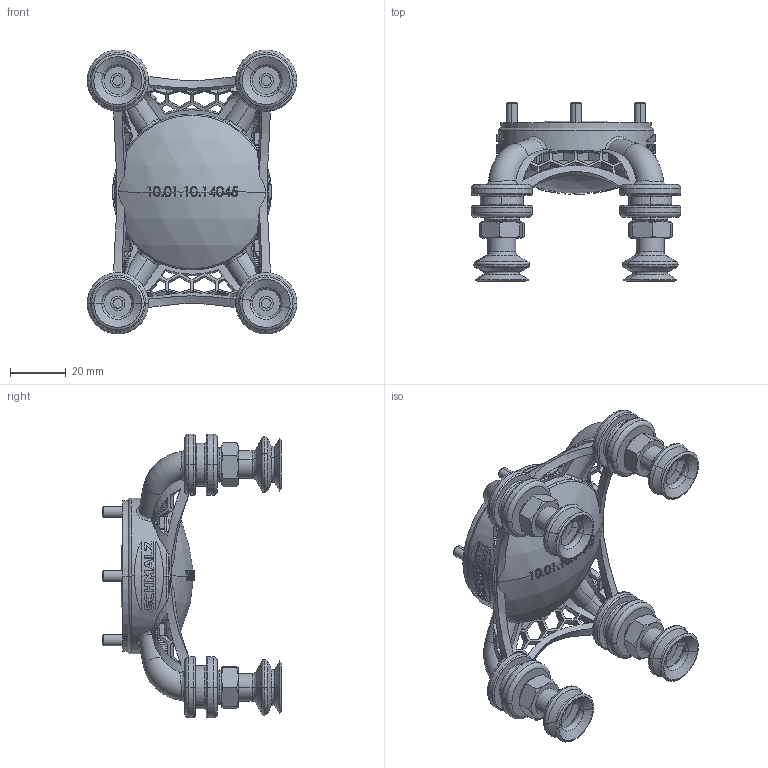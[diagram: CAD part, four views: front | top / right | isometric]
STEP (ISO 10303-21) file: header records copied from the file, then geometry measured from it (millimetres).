
FILE_DESCRIPTION (( 'STEP AP214' ), '1' );
FILE_NAME ('10.01.10.14041K_0_AA.STEP', '2022-11-15T09:16:04', ( '' ), ( '' ), 'SwSTEP 2.0', 'SolidWorks 2021', '' );
FILE_SCHEMA (( 'AUTOMOTIVE_DESIGN' ));
Length unit declared in the file: millimetre
Products named in the file (1): 10.01.10.14041K_0_AA
Bounding box: 75.3 x 64.2 x 102 mm (x, y, z)
Volume: 63147.1 mm3; surface area: 44269.8 mm2
Topology: 14 solids, 16 shells, 1396 faces, 3732 edges, 2372 vertices
Faces by surface type: bspline 712, plane 203, torus 164, cylinder 140, cone 128, sphere 49
Entity records: 77475 total; most frequent: CARTESIAN_POINT 48501, ORIENTED_EDGE 7464, EDGE_CURVE 3732, DIRECTION 3686, VERTEX_POINT 2372, B_SPLINE_CURVE_WITH_KNOTS 2340, AXIS2_PLACEMENT_3D 1621, EDGE_LOOP 1506
